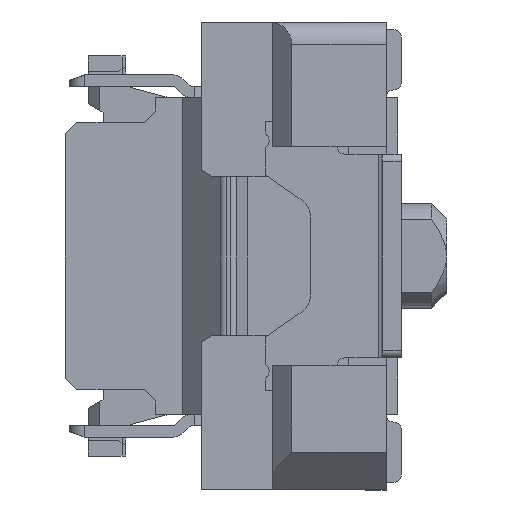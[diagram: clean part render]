
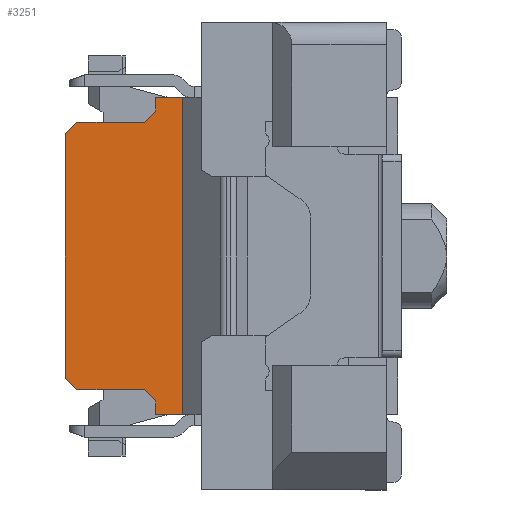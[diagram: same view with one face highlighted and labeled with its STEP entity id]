
A CAD part, left-side view. The second image highlights one B-rep face of the part: STEP entity #3251.
In plain terms, the highlighted planar face has unit normal (-1, 0, 0).
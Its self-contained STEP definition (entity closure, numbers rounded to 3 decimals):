
#258 = ORIENTED_EDGE ( 'NONE', *, *, #109224, .T. ) ;
#1606 = CARTESIAN_POINT ( 'NONE',  ( -6.6, 5.46, 0.29 ) ) ;
#1883 = EDGE_CURVE ( 'NONE', #80916, #25416, #61047, .T. ) ;
#2028 = LINE ( 'NONE', #36487, #91746 ) ;
#3084 = LINE ( 'NONE', #75502, #69901 ) ;
#3251 = ADVANCED_FACE ( 'NONE', ( #59789 ), #21605, .F. ) ;
#3646 = CARTESIAN_POINT ( 'NONE',  ( -6.6, 2.65, 3.1 ) ) ;
#5166 = VECTOR ( 'NONE', #79761, 1000. ) ;
#5418 = DIRECTION ( 'NONE',  ( 0., 0., -1. ) ) ;
#6054 = ORIENTED_EDGE ( 'NONE', *, *, #110233, .T. ) ;
#6787 = CARTESIAN_POINT ( 'NONE',  ( -6.6, 5.91, -0.16 ) ) ;
#7122 = LINE ( 'NONE', #71053, #73878 ) ;
#7264 = CARTESIAN_POINT ( 'NONE',  ( -6.6, 2.9, -2.454 ) ) ;
#7648 = LINE ( 'NONE', #27835, #97330 ) ;
#9672 = ORIENTED_EDGE ( 'NONE', *, *, #92921, .T. ) ;
#10244 = VERTEX_POINT ( 'NONE', #64571 ) ;
#11089 = LINE ( 'NONE', #100677, #31774 ) ;
#11554 = VERTEX_POINT ( 'NONE', #60504 ) ;
#11968 = CARTESIAN_POINT ( 'NONE',  ( -6.6, 4.45, 1.62 ) ) ;
#14616 = VECTOR ( 'NONE', #62590, 1000. ) ;
#14699 = CARTESIAN_POINT ( 'NONE',  ( -6.6, 3.4, -1.77 ) ) ;
#15058 = EDGE_CURVE ( 'NONE', #31485, #104513, #30209, .T. ) ;
#16015 = CARTESIAN_POINT ( 'NONE',  ( -6.6, 3.25, 2.1 ) ) ;
#16371 = VERTEX_POINT ( 'NONE', #16015 ) ;
#17210 = EDGE_CURVE ( 'NONE', #16371, #80935, #7648, .T. ) ;
#18307 = CARTESIAN_POINT ( 'NONE',  ( -6.6, 4.45, 3.1 ) ) ;
#19072 = CARTESIAN_POINT ( 'NONE',  ( -6.6, 4.45, -1.62 ) ) ;
#19230 = ORIENTED_EDGE ( 'NONE', *, *, #89481, .T. ) ;
#19721 = EDGE_CURVE ( 'NONE', #30820, #31485, #7122, .T. ) ;
#21605 = PLANE ( 'NONE',  #83027 ) ;
#22024 = ORIENTED_EDGE ( 'NONE', *, *, #19721, .T. ) ;
#22194 = EDGE_CURVE ( 'NONE', #49758, #80916, #3084, .T. ) ;
#23169 = EDGE_CURVE ( 'NONE', #80935, #10244, #51728, .T. ) ;
#23516 = DIRECTION ( 'NONE',  ( 0., -1., 0. ) ) ;
#25416 = VERTEX_POINT ( 'NONE', #59091 ) ;
#26609 = CARTESIAN_POINT ( 'NONE',  ( -6.6, 4.3, -1.77 ) ) ;
#27182 = CARTESIAN_POINT ( 'NONE',  ( -6.6, 0.2, -2.1 ) ) ;
#27835 = CARTESIAN_POINT ( 'NONE',  ( -6.6, 3.25, 3.1 ) ) ;
#30209 = LINE ( 'NONE', #18307, #96553 ) ;
#30820 = VERTEX_POINT ( 'NONE', #98612 ) ;
#31485 = VERTEX_POINT ( 'NONE', #11968 ) ;
#31774 = VECTOR ( 'NONE', #5418, 1000. ) ;
#32414 = CARTESIAN_POINT ( 'NONE',  ( -6.6, 3.25, 1.92 ) ) ;
#33274 = DIRECTION ( 'NONE',  ( 0., -0.707, -0.707 ) ) ;
#35949 = DIRECTION ( 'NONE',  ( 0., -1., 0. ) ) ;
#36487 = CARTESIAN_POINT ( 'NONE',  ( -6.6, 0.2, 2.1 ) ) ;
#42111 = VERTEX_POINT ( 'NONE', #112380 ) ;
#44957 = DIRECTION ( 'NONE',  ( 0., 0.707, -0.707 ) ) ;
#49758 = VERTEX_POINT ( 'NONE', #26609 ) ;
#51728 = LINE ( 'NONE', #53775, #5166 ) ;
#52305 = EDGE_LOOP ( 'NONE', ( #75526, #6054, #72818, #84952, #258, #110193, #56195, #9672, #22024, #65645, #19230, #97954 ) ) ;
#53775 = CARTESIAN_POINT ( 'NONE',  ( -6.6, 2.36, 2.81 ) ) ;
#53980 = DIRECTION ( 'NONE',  ( 0., 1., 0. ) ) ;
#55220 = VECTOR ( 'NONE', #68049, 1000. ) ;
#55622 = DIRECTION ( 'NONE',  ( 0., 0., -1. ) ) ;
#55978 = VECTOR ( 'NONE', #33274, 1000. ) ;
#56195 = ORIENTED_EDGE ( 'NONE', *, *, #23169, .T. ) ;
#59091 = CARTESIAN_POINT ( 'NONE',  ( -6.6, 3.25, -1.92 ) ) ;
#59789 = FACE_OUTER_BOUND ( 'NONE', #52305, .T. ) ;
#59966 = DIRECTION ( 'NONE',  ( 0., 0., 1. ) ) ;
#60504 = CARTESIAN_POINT ( 'NONE',  ( -6.6, 3.25, -2.1 ) ) ;
#61047 = LINE ( 'NONE', #1606, #14616 ) ;
#62590 = DIRECTION ( 'NONE',  ( 0., -0.707, -0.707 ) ) ;
#64520 = VECTOR ( 'NONE', #59966, 1000. ) ;
#64571 = CARTESIAN_POINT ( 'NONE',  ( -6.6, 3.4, 1.77 ) ) ;
#64651 = DIRECTION ( 'NONE',  ( 1., 0., 0. ) ) ;
#65645 = ORIENTED_EDGE ( 'NONE', *, *, #15058, .T. ) ;
#68049 = DIRECTION ( 'NONE',  ( 0., 1., 0. ) ) ;
#69901 = VECTOR ( 'NONE', #23516, 1000. ) ;
#70537 = DIRECTION ( 'NONE',  ( 0., 0., -1. ) ) ;
#71053 = CARTESIAN_POINT ( 'NONE',  ( -6.6, 2.81, 3.26 ) ) ;
#72818 = ORIENTED_EDGE ( 'NONE', *, *, #97369, .T. ) ;
#73878 = VECTOR ( 'NONE', #44957, 1000. ) ;
#75502 = CARTESIAN_POINT ( 'NONE',  ( -6.6, 2.65, -1.77 ) ) ;
#75526 = ORIENTED_EDGE ( 'NONE', *, *, #1883, .T. ) ;
#78112 = LINE ( 'NONE', #93691, #55220 ) ;
#78886 = LINE ( 'NONE', #6787, #55978 ) ;
#79761 = DIRECTION ( 'NONE',  ( 0., 0.707, -0.707 ) ) ;
#80916 = VERTEX_POINT ( 'NONE', #14699 ) ;
#80935 = VERTEX_POINT ( 'NONE', #32414 ) ;
#82500 = EDGE_CURVE ( 'NONE', #98477, #42111, #90177, .T. ) ;
#83027 = AXIS2_PLACEMENT_3D ( 'NONE', #3646, #64651, #55622 ) ;
#84952 = ORIENTED_EDGE ( 'NONE', *, *, #82500, .T. ) ;
#86279 = VECTOR ( 'NONE', #35949, 1000. ) ;
#88966 = LINE ( 'NONE', #27182, #86279 ) ;
#89193 = DIRECTION ( 'NONE',  ( 0., 0., -1. ) ) ;
#89481 = EDGE_CURVE ( 'NONE', #104513, #49758, #78886, .T. ) ;
#90177 = LINE ( 'NONE', #7264, #64520 ) ;
#91746 = VECTOR ( 'NONE', #53980, 1000. ) ;
#92921 = EDGE_CURVE ( 'NONE', #10244, #30820, #78112, .T. ) ;
#93691 = CARTESIAN_POINT ( 'NONE',  ( -6.6, 2.65, 1.77 ) ) ;
#96553 = VECTOR ( 'NONE', #70537, 1000. ) ;
#97330 = VECTOR ( 'NONE', #89193, 1000. ) ;
#97369 = EDGE_CURVE ( 'NONE', #11554, #98477, #88966, .T. ) ;
#97954 = ORIENTED_EDGE ( 'NONE', *, *, #22194, .T. ) ;
#98477 = VERTEX_POINT ( 'NONE', #105712 ) ;
#98612 = CARTESIAN_POINT ( 'NONE',  ( -6.6, 4.3, 1.77 ) ) ;
#100677 = CARTESIAN_POINT ( 'NONE',  ( -6.6, 3.25, 3.1 ) ) ;
#104513 = VERTEX_POINT ( 'NONE', #19072 ) ;
#105712 = CARTESIAN_POINT ( 'NONE',  ( -6.6, 2.9, -2.1 ) ) ;
#109224 = EDGE_CURVE ( 'NONE', #42111, #16371, #2028, .T. ) ;
#110193 = ORIENTED_EDGE ( 'NONE', *, *, #17210, .T. ) ;
#110233 = EDGE_CURVE ( 'NONE', #25416, #11554, #11089, .T. ) ;
#112380 = CARTESIAN_POINT ( 'NONE',  ( -6.6, 2.9, 2.1 ) ) ;
